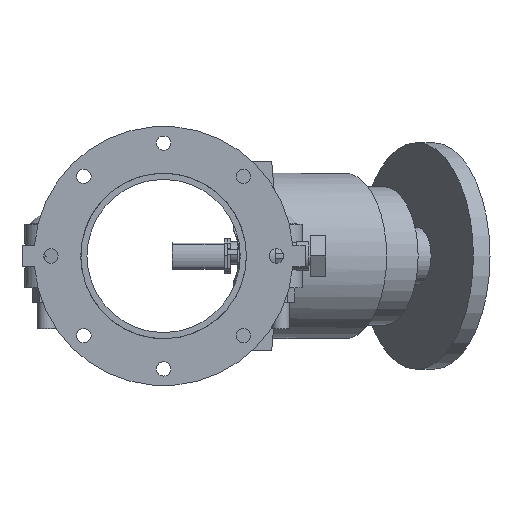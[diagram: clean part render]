
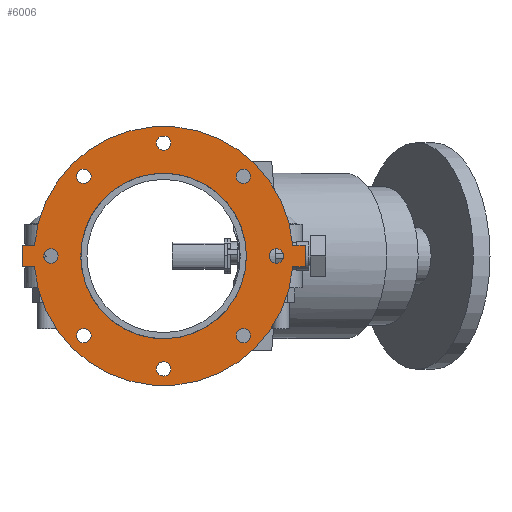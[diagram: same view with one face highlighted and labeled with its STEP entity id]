
A CAD part, front view. The second image highlights one B-rep face of the part: STEP entity #6006.
In plain terms, the highlighted planar face has unit normal (0, -1, 0) as drawn and (0, 0, 1) by its records, which use the part's own axes.
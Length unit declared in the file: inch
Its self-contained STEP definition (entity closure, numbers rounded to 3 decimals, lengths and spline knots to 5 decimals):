
#166=FACE_BOUND('',#780,.T.);
#167=FACE_BOUND('',#781,.T.);
#168=FACE_BOUND('',#782,.T.);
#169=FACE_BOUND('',#783,.T.);
#170=FACE_BOUND('',#784,.T.);
#171=FACE_BOUND('',#785,.T.);
#172=FACE_BOUND('',#786,.T.);
#173=FACE_BOUND('',#787,.T.);
#174=FACE_BOUND('',#788,.T.);
#235=PLANE('',#6532);
#440=FACE_OUTER_BOUND('',#779,.T.);
#779=EDGE_LOOP('',(#3916,#3917,#3918,#3919,#3920,#3921,#3922,#3923));
#780=EDGE_LOOP('',(#3924));
#781=EDGE_LOOP('',(#3925));
#782=EDGE_LOOP('',(#3926));
#783=EDGE_LOOP('',(#3927));
#784=EDGE_LOOP('',(#3928));
#785=EDGE_LOOP('',(#3929));
#786=EDGE_LOOP('',(#3930));
#787=EDGE_LOOP('',(#3931));
#788=EDGE_LOOP('',(#3932,#3933));
#1173=LINE('',#9148,#1629);
#1174=LINE('',#9151,#1630);
#1177=LINE('',#9156,#1633);
#1178=LINE('',#9159,#1634);
#1180=LINE('',#9162,#1636);
#1181=LINE('',#9164,#1637);
#1629=VECTOR('',#7290,0.3937);
#1630=VECTOR('',#7293,0.3937);
#1633=VECTOR('',#7298,0.3937);
#1634=VECTOR('',#7301,0.3937);
#1636=VECTOR('',#7305,0.3937);
#1637=VECTOR('',#7308,0.3937);
#2065=CIRCLE('',#6491,0.375);
#2067=CIRCLE('',#6494,0.375);
#2069=CIRCLE('',#6497,0.375);
#2071=CIRCLE('',#6500,0.375);
#2073=CIRCLE('',#6503,0.375);
#2075=CIRCLE('',#6506,0.375);
#2077=CIRCLE('',#6509,0.375);
#2079=CIRCLE('',#6512,0.375);
#2085=CIRCLE('',#6520,6.75);
#2086=CIRCLE('',#6522,4.3125);
#2087=CIRCLE('',#6523,4.3125);
#2088=CIRCLE('',#6525,6.75);
#2395=VERTEX_POINT('',#9059);
#2397=VERTEX_POINT('',#9065);
#2399=VERTEX_POINT('',#9071);
#2401=VERTEX_POINT('',#9077);
#2403=VERTEX_POINT('',#9083);
#2405=VERTEX_POINT('',#9089);
#2407=VERTEX_POINT('',#9095);
#2409=VERTEX_POINT('',#9101);
#2421=VERTEX_POINT('',#9128);
#2422=VERTEX_POINT('',#9130);
#2423=VERTEX_POINT('',#9134);
#2424=VERTEX_POINT('',#9136);
#2425=VERTEX_POINT('',#9140);
#2426=VERTEX_POINT('',#9142);
#2427=VERTEX_POINT('',#9146);
#2428=VERTEX_POINT('',#9150);
#2429=VERTEX_POINT('',#9154);
#2430=VERTEX_POINT('',#9158);
#2973=EDGE_CURVE('',#2395,#2395,#2065,.T.);
#2976=EDGE_CURVE('',#2397,#2397,#2067,.T.);
#2979=EDGE_CURVE('',#2399,#2399,#2069,.T.);
#2982=EDGE_CURVE('',#2401,#2401,#2071,.T.);
#2985=EDGE_CURVE('',#2403,#2403,#2073,.T.);
#2988=EDGE_CURVE('',#2405,#2405,#2075,.T.);
#2991=EDGE_CURVE('',#2407,#2407,#2077,.T.);
#2994=EDGE_CURVE('',#2409,#2409,#2079,.T.);
#3009=EDGE_CURVE('',#2421,#2422,#2085,.T.);
#3011=EDGE_CURVE('',#2424,#2423,#2086,.T.);
#3012=EDGE_CURVE('',#2423,#2424,#2087,.T.);
#3014=EDGE_CURVE('',#2426,#2425,#2088,.T.);
#3017=EDGE_CURVE('',#2422,#2427,#1173,.T.);
#3018=EDGE_CURVE('',#2428,#2426,#1174,.T.);
#3021=EDGE_CURVE('',#2425,#2429,#1177,.T.);
#3022=EDGE_CURVE('',#2430,#2421,#1178,.T.);
#3024=EDGE_CURVE('',#2429,#2430,#1180,.T.);
#3025=EDGE_CURVE('',#2427,#2428,#1181,.T.);
#3916=ORIENTED_EDGE('',*,*,#3021,.T.);
#3917=ORIENTED_EDGE('',*,*,#3024,.T.);
#3918=ORIENTED_EDGE('',*,*,#3022,.T.);
#3919=ORIENTED_EDGE('',*,*,#3009,.T.);
#3920=ORIENTED_EDGE('',*,*,#3017,.T.);
#3921=ORIENTED_EDGE('',*,*,#3025,.T.);
#3922=ORIENTED_EDGE('',*,*,#3018,.T.);
#3923=ORIENTED_EDGE('',*,*,#3014,.T.);
#3924=ORIENTED_EDGE('',*,*,#2973,.T.);
#3925=ORIENTED_EDGE('',*,*,#2976,.T.);
#3926=ORIENTED_EDGE('',*,*,#2979,.T.);
#3927=ORIENTED_EDGE('',*,*,#2982,.T.);
#3928=ORIENTED_EDGE('',*,*,#2985,.T.);
#3929=ORIENTED_EDGE('',*,*,#2988,.T.);
#3930=ORIENTED_EDGE('',*,*,#2991,.T.);
#3931=ORIENTED_EDGE('',*,*,#2994,.T.);
#3932=ORIENTED_EDGE('',*,*,#3011,.T.);
#3933=ORIENTED_EDGE('',*,*,#3012,.T.);
#6006=ADVANCED_FACE('',(#440,#166,#167,#168,#169,#170,#171,#172,#173,#174),
#235,.T.);
#6491=AXIS2_PLACEMENT_3D('',#9060,#7198,#7199);
#6494=AXIS2_PLACEMENT_3D('',#9066,#7205,#7206);
#6497=AXIS2_PLACEMENT_3D('',#9072,#7212,#7213);
#6500=AXIS2_PLACEMENT_3D('',#9078,#7219,#7220);
#6503=AXIS2_PLACEMENT_3D('',#9084,#7226,#7227);
#6506=AXIS2_PLACEMENT_3D('',#9090,#7233,#7234);
#6509=AXIS2_PLACEMENT_3D('',#9096,#7240,#7241);
#6512=AXIS2_PLACEMENT_3D('',#9102,#7247,#7248);
#6520=AXIS2_PLACEMENT_3D('',#9132,#7272,#7273);
#6522=AXIS2_PLACEMENT_3D('',#9137,#7277,#7278);
#6523=AXIS2_PLACEMENT_3D('',#9138,#7279,#7280);
#6525=AXIS2_PLACEMENT_3D('',#9143,#7284,#7285);
#6532=AXIS2_PLACEMENT_3D('',#9165,#7309,#7310);
#7198=DIRECTION('center_axis',(0.,0.,-1.));
#7199=DIRECTION('ref_axis',(-0.707,0.707,0.));
#7205=DIRECTION('center_axis',(0.,0.,-1.));
#7206=DIRECTION('ref_axis',(0.,1.,0.));
#7212=DIRECTION('center_axis',(0.,0.,-1.));
#7213=DIRECTION('ref_axis',(0.707,0.707,0.));
#7219=DIRECTION('center_axis',(0.,0.,-1.));
#7220=DIRECTION('ref_axis',(1.,0.,0.));
#7226=DIRECTION('center_axis',(0.,0.,-1.));
#7227=DIRECTION('ref_axis',(0.707,-0.707,0.));
#7233=DIRECTION('center_axis',(0.,0.,-1.));
#7234=DIRECTION('ref_axis',(0.,-1.,0.));
#7240=DIRECTION('center_axis',(0.,0.,-1.));
#7241=DIRECTION('ref_axis',(-0.707,-0.707,0.));
#7247=DIRECTION('center_axis',(0.,0.,-1.));
#7248=DIRECTION('ref_axis',(-1.,0.,0.));
#7272=DIRECTION('center_axis',(0.,0.,1.));
#7273=DIRECTION('ref_axis',(-1.,0.,0.));
#7277=DIRECTION('center_axis',(0.,0.,-1.));
#7278=DIRECTION('ref_axis',(-1.,0.,0.));
#7279=DIRECTION('center_axis',(0.,0.,-1.));
#7280=DIRECTION('ref_axis',(-1.,0.,0.));
#7284=DIRECTION('center_axis',(0.,0.,1.));
#7285=DIRECTION('ref_axis',(-1.,0.,0.));
#7290=DIRECTION('',(0.,1.,0.));
#7293=DIRECTION('',(0.,-1.,0.));
#7298=DIRECTION('',(0.,-1.,0.));
#7301=DIRECTION('',(0.,1.,0.));
#7305=DIRECTION('',(1.,0.,0.));
#7308=DIRECTION('',(-1.,0.,0.));
#7309=DIRECTION('center_axis',(0.,0.,1.));
#7310=DIRECTION('ref_axis',(1.,0.,0.));
#9059=CARTESIAN_POINT('',(-3.88909,3.88909,0.565));
#9060=CARTESIAN_POINT('Origin',(-4.15425,4.15425,0.565));
#9065=CARTESIAN_POINT('',(0.,5.5,0.565));
#9066=CARTESIAN_POINT('Origin',(0.,5.875,0.565));
#9071=CARTESIAN_POINT('',(3.88909,3.88909,0.565));
#9072=CARTESIAN_POINT('Origin',(4.15425,4.15425,0.565));
#9077=CARTESIAN_POINT('',(5.5,0.,0.565));
#9078=CARTESIAN_POINT('Origin',(5.875,0.,0.565));
#9083=CARTESIAN_POINT('',(3.88909,-3.88909,0.565));
#9084=CARTESIAN_POINT('Origin',(4.15425,-4.15425,0.565));
#9089=CARTESIAN_POINT('',(0.,-5.5,0.565));
#9090=CARTESIAN_POINT('Origin',(0.,-5.875,0.565));
#9095=CARTESIAN_POINT('',(-3.88909,-3.88909,0.565));
#9096=CARTESIAN_POINT('Origin',(-4.15425,-4.15425,0.565));
#9101=CARTESIAN_POINT('',(-5.5,0.,0.565));
#9102=CARTESIAN_POINT('Origin',(-5.875,0.,0.565));
#9128=CARTESIAN_POINT('',(0.565,-6.72631,0.565));
#9130=CARTESIAN_POINT('',(0.565,6.72631,0.565));
#9132=CARTESIAN_POINT('Origin',(0.,0.,0.565));
#9134=CARTESIAN_POINT('',(4.3125,0.,0.565));
#9136=CARTESIAN_POINT('',(0.565,4.27533,0.565));
#9137=CARTESIAN_POINT('Origin',(0.,0.,0.565));
#9138=CARTESIAN_POINT('Origin',(0.,0.,0.565));
#9140=CARTESIAN_POINT('',(-0.565,-6.72631,0.565));
#9142=CARTESIAN_POINT('',(-0.565,6.72631,0.565));
#9143=CARTESIAN_POINT('Origin',(0.,0.,0.565));
#9146=CARTESIAN_POINT('',(0.565,7.375,0.565));
#9148=CARTESIAN_POINT('',(0.565,7.375,0.565));
#9150=CARTESIAN_POINT('',(-0.565,7.375,0.565));
#9151=CARTESIAN_POINT('',(-0.565,-7.375,0.565));
#9154=CARTESIAN_POINT('',(-0.565,-7.375,0.565));
#9156=CARTESIAN_POINT('',(-0.565,-7.375,0.565));
#9158=CARTESIAN_POINT('',(0.565,-7.375,0.565));
#9159=CARTESIAN_POINT('',(0.565,7.375,0.565));
#9162=CARTESIAN_POINT('',(0.565,-7.375,0.565));
#9164=CARTESIAN_POINT('',(-0.565,7.375,0.565));
#9165=CARTESIAN_POINT('Origin',(0.,0.,0.565));
